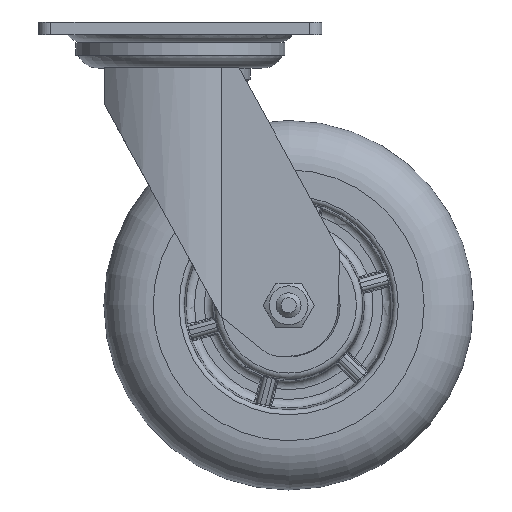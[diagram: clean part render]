
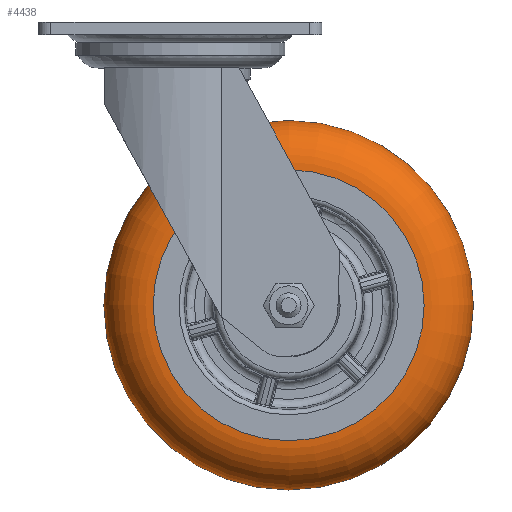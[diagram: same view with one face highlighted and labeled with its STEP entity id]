
A CAD part, front view. The second image highlights one B-rep face of the part: STEP entity #4438.
In plain terms, the highlighted toroidal (fillet/blend) face has major radius 55 mm and minor radius 20 mm.
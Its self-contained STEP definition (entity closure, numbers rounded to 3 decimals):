
#377=TOROIDAL_SURFACE('',#17596,55.,20.);
#4438=ADVANCED_FACE('',(#4986,#4987),#377,.T.);
#4986=FACE_BOUND('',#6143,.T.);
#4987=FACE_BOUND('',#6144,.T.);
#6143=EDGE_LOOP('',(#10887));
#6144=EDGE_LOOP('',(#10888));
#10887=ORIENTED_EDGE('',*,*,#14785,.F.);
#10888=ORIENTED_EDGE('',*,*,#14787,.F.);
#12413=VERTEX_POINT('',#48805);
#12415=VERTEX_POINT('',#48810);
#14785=EDGE_CURVE('',#12413,#12413,#15803,.T.);
#14787=EDGE_CURVE('',#12415,#12415,#15805,.T.);
#15803=CIRCLE('',#17590,55.);
#15805=CIRCLE('',#17593,75.);
#17590=AXIS2_PLACEMENT_3D('',#48804,#21702,#21703);
#17593=AXIS2_PLACEMENT_3D('',#48809,#21708,#21709);
#17596=AXIS2_PLACEMENT_3D('',#48813,#21714,#21715);
#21702=DIRECTION('',(0.,-1.,0.));
#21703=DIRECTION('',(0.,0.,1.));
#21708=DIRECTION('',(0.,1.,0.));
#21709=DIRECTION('',(0.,0.,1.));
#21714=DIRECTION('',(0.,1.,0.));
#21715=DIRECTION('',(0.,0.,-1.));
#48804=CARTESIAN_POINT('',(44.,-25.5,-115.));
#48805=CARTESIAN_POINT('',(44.,-25.5,-60.));
#48809=CARTESIAN_POINT('',(44.,-5.5,-115.));
#48810=CARTESIAN_POINT('',(44.,-5.5,-40.));
#48813=CARTESIAN_POINT('',(44.,-5.5,-115.));
